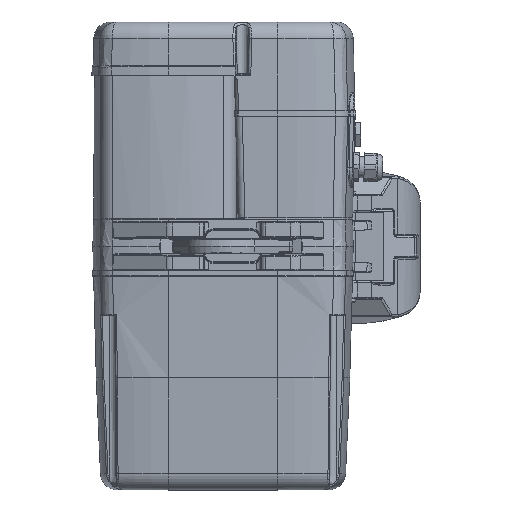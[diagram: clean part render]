
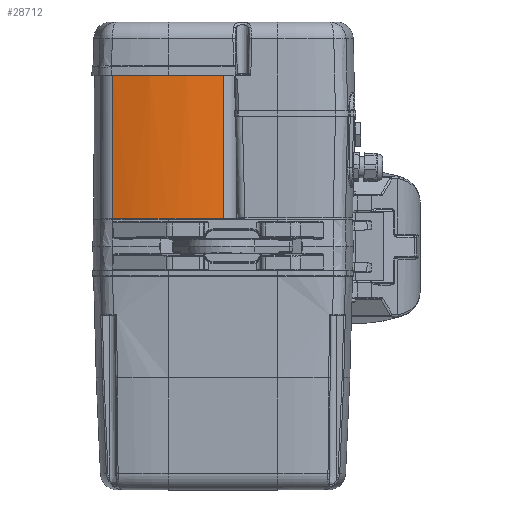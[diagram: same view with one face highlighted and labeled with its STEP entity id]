
A CAD part, top view. The second image highlights one B-rep face of the part: STEP entity #28712.
In plain terms, the highlighted cylindrical face has radius 262.421 mm (diameter 524.843 mm), a partial arc.
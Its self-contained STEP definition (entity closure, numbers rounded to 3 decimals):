
#1619=B_SPLINE_CURVE_WITH_KNOTS('',3,(#56178,#56179,#56180,#56181,#56182,
#56183),.UNSPECIFIED.,.F.,.F.,(4,2,4),(3.614,4.008,
4.57),.UNSPECIFIED.);
#2785=LINE('',#56166,#4242);
#2787=LINE('',#56174,#4244);
#4242=VECTOR('',#35902,168.);
#4244=VECTOR('',#35910,168.077);
#6371=FACE_OUTER_BOUND('',#8138,.T.);
#8138=EDGE_LOOP('',(#20722,#20723,#20724,#20725,#20726,#20727));
#9816=CIRCLE('',#30987,262.421);
#9817=CIRCLE('',#30988,262.421);
#9818=CIRCLE('',#30989,262.421);
#11670=VERTEX_POINT('',#56162);
#11672=VERTEX_POINT('',#56165);
#11674=VERTEX_POINT('',#56171);
#11675=VERTEX_POINT('',#56173);
#11676=VERTEX_POINT('',#56175);
#11677=VERTEX_POINT('',#56177);
#14873=EDGE_CURVE('',#11672,#11670,#2785,.T.);
#14876=EDGE_CURVE('',#11674,#11670,#9816,.T.);
#14877=EDGE_CURVE('',#11675,#11674,#2787,.T.);
#14878=EDGE_CURVE('',#11676,#11675,#9817,.T.);
#14879=EDGE_CURVE('',#11677,#11676,#1619,.T.);
#14880=EDGE_CURVE('',#11672,#11677,#9818,.T.);
#20722=ORIENTED_EDGE('',*,*,#14876,.F.);
#20723=ORIENTED_EDGE('',*,*,#14877,.F.);
#20724=ORIENTED_EDGE('',*,*,#14878,.F.);
#20725=ORIENTED_EDGE('',*,*,#14879,.F.);
#20726=ORIENTED_EDGE('',*,*,#14880,.F.);
#20727=ORIENTED_EDGE('',*,*,#14873,.T.);
#25996=CYLINDRICAL_SURFACE('',#30986,262.421);
#28712=ADVANCED_FACE('',(#6371),#25996,.T.);
#30986=AXIS2_PLACEMENT_3D('',#56170,#35906,#35907);
#30987=AXIS2_PLACEMENT_3D('',#56172,#35908,#35909);
#30988=AXIS2_PLACEMENT_3D('',#56176,#35911,#35912);
#30989=AXIS2_PLACEMENT_3D('',#56184,#35913,#35914);
#35902=DIRECTION('',(0.,1.,0.));
#35906=DIRECTION('center_axis',(0.,1.,0.));
#35907=DIRECTION('ref_axis',(0.167,0.,-0.986));
#35908=DIRECTION('center_axis',(0.,1.,0.));
#35909=DIRECTION('ref_axis',(0.167,0.,-0.986));
#35910=DIRECTION('',(0.,1.,0.));
#35911=DIRECTION('center_axis',(0.,-1.,0.));
#35912=DIRECTION('ref_axis',(0.167,0.,-0.986));
#35913=DIRECTION('center_axis',(0.,-1.,0.));
#35914=DIRECTION('ref_axis',(0.167,0.,-0.986));
#56162=CARTESIAN_POINT('',(-0.855,200.,-78.729));
#56165=CARTESIAN_POINT('',(-0.855,32.,-78.729));
#56166=CARTESIAN_POINT('',(-0.855,32.5,-78.729));
#56170=CARTESIAN_POINT('Origin',(-65.75,32.5,-333.));
#56171=CARTESIAN_POINT('',(-130.645,200.,-78.729));
#56172=CARTESIAN_POINT('Origin',(-65.75,200.,-333.));
#56173=CARTESIAN_POINT('',(-130.645,31.923,-78.729));
#56174=CARTESIAN_POINT('',(-130.645,32.5,-78.729));
#56175=CARTESIAN_POINT('',(-65.75,31.923,-70.579));
#56176=CARTESIAN_POINT('Origin',(-65.75,31.923,-333.));
#56177=CARTESIAN_POINT('',(-55.491,32.,-70.779));
#56178=CARTESIAN_POINT('Ctrl Pts',(-55.491,32.,-70.779));
#56179=CARTESIAN_POINT('Ctrl Pts',(-56.869,32.,-70.725));
#56180=CARTESIAN_POINT('Ctrl Pts',(-58.311,31.986,-70.68));
#56181=CARTESIAN_POINT('Ctrl Pts',(-61.814,31.946,-70.6));
#56182=CARTESIAN_POINT('Ctrl Pts',(-63.875,31.923,-70.579));
#56183=CARTESIAN_POINT('Ctrl Pts',(-65.75,31.923,-70.579));
#56184=CARTESIAN_POINT('Origin',(-65.75,32.,-333.));
